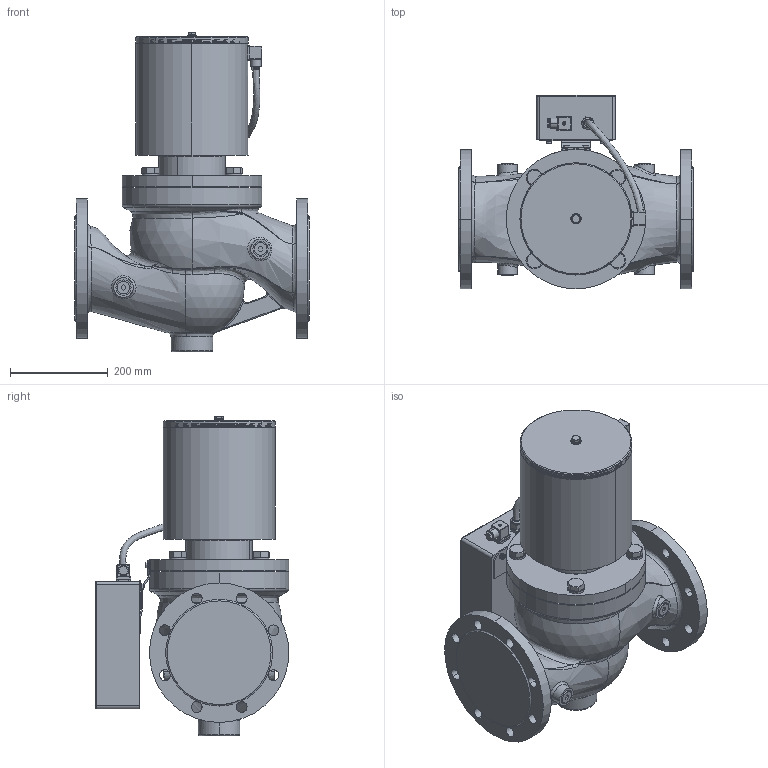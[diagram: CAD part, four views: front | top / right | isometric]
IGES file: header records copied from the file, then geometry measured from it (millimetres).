
Global section: file name: No Iges File Name specified; native system: AutoDesk Inventor R12.0; preprocessor: AutoDesk Inventor Iges Exporter R12.0; date: 20101020.140524; units: millimetre
Bounding box: 480 x 396 x 653.5 mm (x, y, z)
Volume: 37386848.1 mm3; surface area: 1241914.2 mm2
Topology: 1 solids, 1 shells, 778 faces, 2017 edges, 1269 vertices
Faces by surface type: plane 341, cylinder 153, bspline 137, cone 64, revolution 47, torus 26, sphere 10
